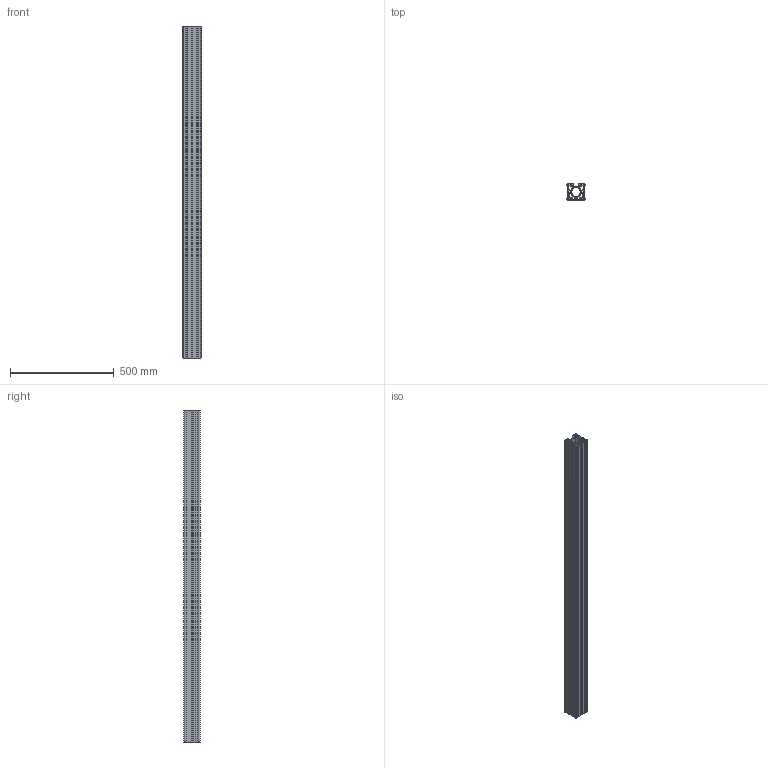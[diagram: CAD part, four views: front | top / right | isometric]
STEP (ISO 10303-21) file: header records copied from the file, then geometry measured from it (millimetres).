
FILE_DESCRIPTION (( 'STEP AP203' ), '1' );
FILE_NAME ('_-_MLF 4 1598 mm lang.step', '2005-09-01T12:46:15', ( ' ' ), ( ' ' ), 'SwSTEP 2.0', 'SolidWorks 2005187', '' );
FILE_SCHEMA (( 'CONFIG_CONTROL_DESIGN' ));
Length unit declared in the file: millimetre
Products named in the file (1): _-_MLF 4  1598 mm lang
Bounding box: 87.6 x 80 x 1598 mm (x, y, z)
Volume: 3681751.1 mm3; surface area: 1975891.1 mm2
Topology: 1 solids, 1 shells, 248 faces, 762 edges, 500 vertices
Faces by surface type: plane 174, cylinder 74
Entity records: 8575 total; most frequent: ORIENTED_EDGE 1524, CARTESIAN_POINT 1511, DIRECTION 1408, EDGE_CURVE 762, LINE 614, VECTOR 614, VERTEX_POINT 500, AXIS2_PLACEMENT_3D 397
